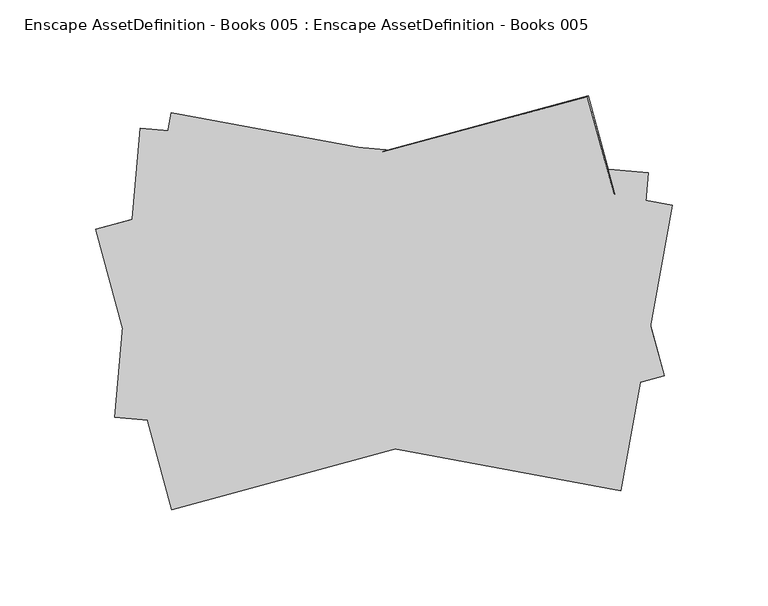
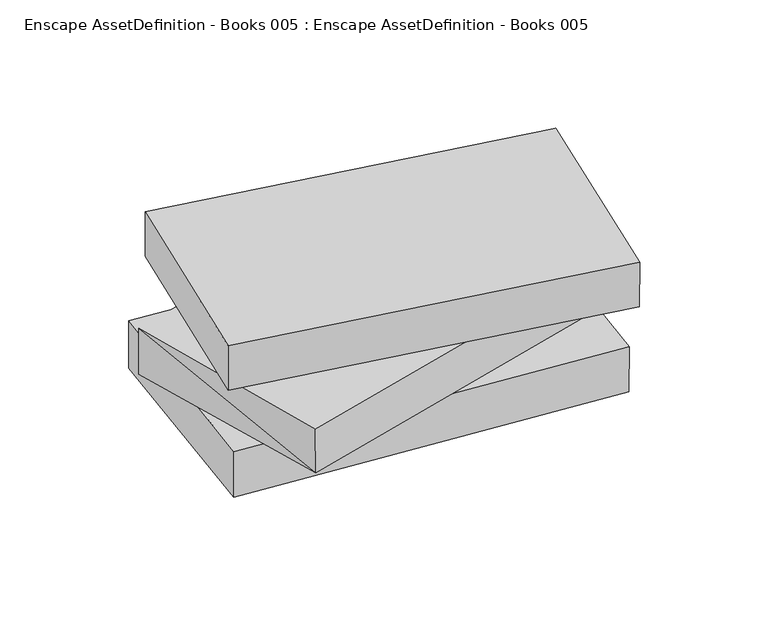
"""IFC4 building model written with IfcOpenShell, lengths in millimetres: geographic element geometry, Enscape AssetDefinition - Books 005 : Enscape AssetDefinition - Books 005."""

from ifc_helpers import new_model, si_unit, origin, place, context, project, spatial, triangles, source, transform, mapped, element, save


def enscape_assetdefinition_books_005_enscape_assetdefinition_3f142897(model_context):
    return source(origin(), model_context, "Body", "Tessellation", [
        triangles([(-123.7117166, 112.9495555, 0.0), (142.251864, 89.6815899, 34.037128), (-123.7117166, 112.9495555, 35.3876474), (-136.9368178, -38.2227396, 0.0), (128.5976011, -61.5967535, 0.0), (142.251864, 89.6815899, 0.0), (-136.9368178, -38.2227396, 34.037128), (128.9957509, -61.8338438, 33.6939962), (154.816713, 72.6990418, 105.9548608), (127.4801639, -76.2894204, 72.7470585), (154.817694, 72.6990418, 72.7470585), (-107.292379, 121.2167471, 72.9631427), (-107.292379, 121.2167471, 105.9548608), (-134.6789432, -28.0418158, 105.9548608), (127.8533152, -76.5625233, 105.9548608), (-134.6789432, -28.0418158, 72.9631427), (150.4710298, -16.3152923, 37.1563326), (-107.0762949, -86.6494167, 69.4998049), (-146.955683, 60.1231924, 69.8429344), (150.4710298, -16.3152923, 69.8429344), (110.3885745, 129.6129825, 70.0590231), (-106.727161, -86.3463011, 36.9412453), (110.6816889, 130.1251787, 35.8058109), (-146.955683, 60.1231924, 35.8058109)], [[22, 20, 18], [22, 18, 19], [22, 19, 24], [22, 24, 23], [22, 23, 17], [22, 17, 20], [24, 19, 21], [24, 21, 23], [18, 20, 21], [21, 20, 17], [18, 21, 19], [21, 17, 23], [16, 14, 13], [16, 13, 12], [16, 12, 11], [16, 11, 10], [14, 16, 10], [14, 10, 15], [14, 15, 9], [12, 13, 9], [9, 15, 10], [14, 9, 13], [12, 9, 11], [9, 10, 11], [5, 8, 7], [5, 7, 4], [2, 8, 5], [2, 7, 8], [7, 2, 3], [2, 5, 6], [1, 6, 5], [1, 5, 4], [1, 4, 7], [1, 3, 2], [1, 7, 3], [1, 2, 6]]),
    ])


if __name__ == "__main__":
    model = new_model("IFC4")
    model_context = context("Model", 3, world=origin())
    ifc_project = project(units=[si_unit("LENGTHUNIT", "METRE", prefix="MILLI")], contexts=[model_context])
    site = spatial("IfcSite", under=ifc_project)
    building = spatial("IfcBuilding", under=site)
    placement = place(None, origin())
    enscape_assetdefinition_books_005_enscape_assetdefinition_shape = enscape_assetdefinition_books_005_enscape_assetdefinition_3f142897(model_context)
    element("IfcGeographicElement", 1, ObjectType="Enscape AssetDefinition - Books 005 : Enscape AssetDefinition - Books 005", at=placement, inside=building, context=model_context, shape_type="MappedRepresentation", body=[
        mapped(enscape_assetdefinition_books_005_enscape_assetdefinition_shape, transform((0.0, 0.0, 0.0), x_axis=(1.0, 0.0, 0.0), y_axis=(0.0, 1.0, 0.0), z_axis=(0.0, 0.0, 1.0))),
    ])
    save(model, "model.ifc")
